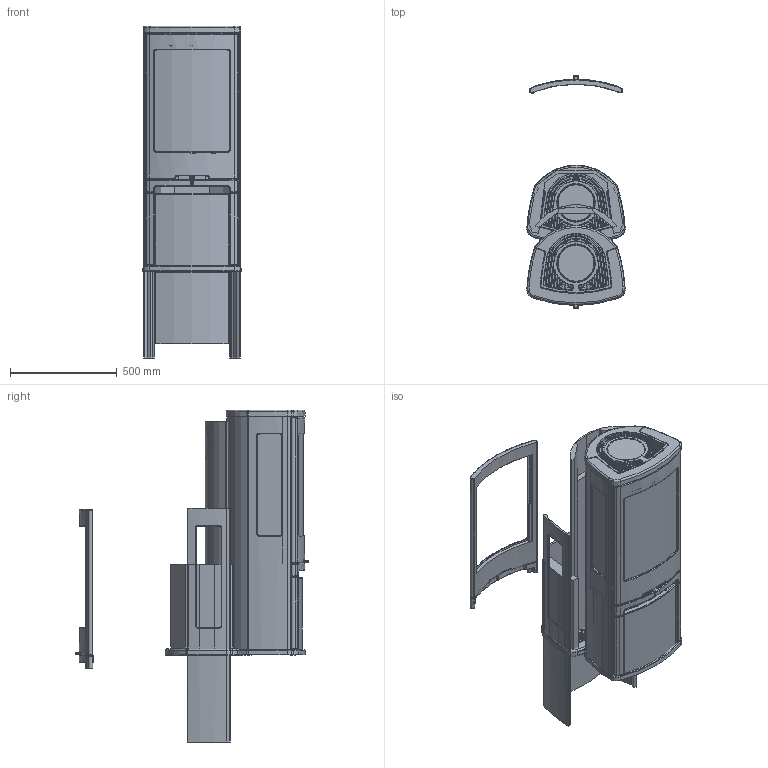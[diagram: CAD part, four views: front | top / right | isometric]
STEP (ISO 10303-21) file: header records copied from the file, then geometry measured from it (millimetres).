
FILE_DESCRIPTION( ( 'Unknown' ), '1' );
FILE_NAME( 'C:/Users/HAnilsd/AppData/Roaming/Unigraphics Solutions/Solid Edge/Insight/insight/insight/interior models/C750 Assembly.stp', 'Unknown', ( 'Unknown' ), ( 'Unknown' ), 'PSStep 13.0', 'Unknown', ' ' );
FILE_SCHEMA( ( 'AUTOMOTIVE_DESIGN { 1 0 10303 214 1 1 1 1 }' ) );
Length unit declared in the file: millimetre
Products named in the file (23): Assem1; Door C700; Vedfacksfront C700; Lower door C700; Foot C750; Top C700; Side left C750; Side right C750; Back C750; Frame C750; Stove body C700; Glass C700; Fire C700; Vermiculite C700
Bounding box: 461.33 x 1093.3 x 1558 mm (x, y, z)
Volume: 232076818.5 mm3; surface area: 15627535 mm2
Topology: 45 solids, 45 shells, 2635 faces, 6613 edges, 4064 vertices
Faces by surface type: plane 930, bspline 536, cylinder 403, cone 340, torus 320, sphere 52, extrusion 52, revolution 2
Full cylindrical faces by diameter (mm): 5 x12, 10.1 x4, 15 x2, 65 x2, 113 x2, 150 x4, 168 x4, 204 x2, 208 x2
Entity records: 84325 total; most frequent: CARTESIAN_POINT 44339, ORIENTED_EDGE 6388, DIRECTION 5731, EDGE_CURVE 3194, AXIS2_PLACEMENT_3D 2151, VERTEX_POINT 1987, EDGE_LOOP 1439, VECTOR 1428
